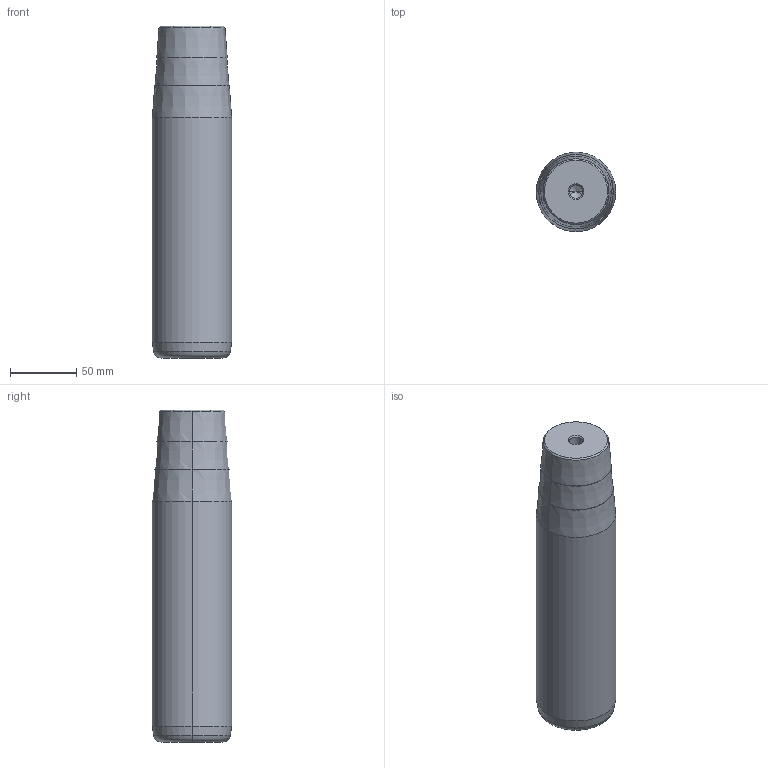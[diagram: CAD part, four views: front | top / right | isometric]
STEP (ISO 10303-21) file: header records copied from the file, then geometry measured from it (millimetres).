
FILE_DESCRIPTION(('CATIA V5 STEP Exchange'),'2;1');
FILE_NAME('C:\Users\Utente\Desktop\IO LAVORO\3D X SITO CF\X SITO\722\722-60x200x251.stp','2021-01-07T19:33:34+00:00',('none'),('none'),'CATIA Version 5 Release 20 GA (IN-10)','CATIA V5 STEP AP203','none');
FILE_SCHEMA(('CONFIG_CONTROL_DESIGN'));
Length unit declared in the file: millimetre
Products named in the file (1): 722-60x200x251
Bounding box: 60 x 60 x 251 mm (x, y, z)
Volume: 669791.1 mm3; surface area: 52059.6 mm2
Topology: 1 solids, 1 shells, 32 faces, 66 edges, 34 vertices
Faces by surface type: cone 22, cylinder 6, plane 2, torus 2
Entity records: 866 total; most frequent: CARTESIAN_POINT 189, ORIENTED_EDGE 124, DIRECTION 123, AXIS2_PLACEMENT_3D 64, EDGE_CURVE 62, EDGE_LOOP 34, VERTEX_POINT 34, ADVANCED_FACE 32
